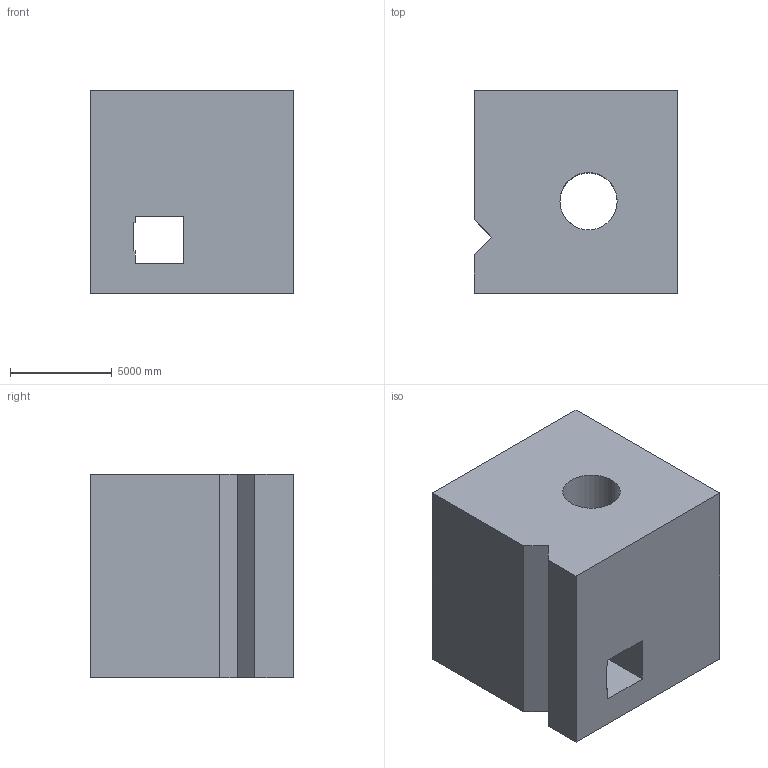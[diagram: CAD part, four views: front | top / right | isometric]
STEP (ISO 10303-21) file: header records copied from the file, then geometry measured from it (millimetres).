
FILE_DESCRIPTION (( 'STEP AP203' ), '1' );
FILE_NAME ('1464.STEP', '2022-08-18T14:38:03', ( 'user' ), ( '' ), 'SwSTEP 2.0', 'SolidWorks 2021', '' );
FILE_SCHEMA (( 'CONFIG_CONTROL_DESIGN' ));
Length unit declared in the file: centimetre
Products named in the file (1): 1464
Bounding box: 10000 x 10000 x 10000 mm (x, y, z)
Volume: 865253252283.8 mm3; surface area: 754360905.5 mm2
Topology: 1 solids, 1 shells, 22 faces, 66 edges, 44 vertices
Faces by surface type: plane 19, cylinder 3
Entity records: 829 total; most frequent: CARTESIAN_POINT 133, ORIENTED_EDGE 132, DIRECTION 122, EDGE_CURVE 66, VECTOR 56, LINE 56, VERTEX_POINT 44, AXIS2_PLACEMENT_3D 33
